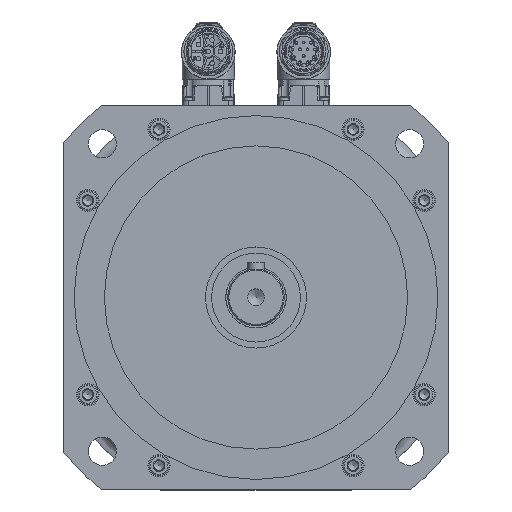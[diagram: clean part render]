
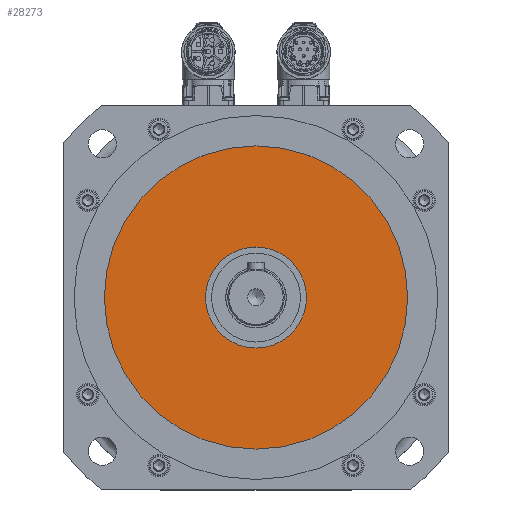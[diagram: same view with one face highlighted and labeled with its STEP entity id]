
A CAD part, top view. The second image highlights one B-rep face of the part: STEP entity #28273.
In plain terms, the highlighted planar face has unit normal (0, 0, 1).
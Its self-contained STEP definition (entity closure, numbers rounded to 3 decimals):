
#3888=FACE_BOUND('',#6260,.T.);
#3889=FACE_BOUND('',#6261,.T.);
#6260=EDGE_LOOP('',(#19713));
#6261=EDGE_LOOP('',(#19714));
#11492=CIRCLE('',#30103,25.);
#11496=CIRCLE('',#30112,75.);
#12840=VERTEX_POINT('',#40764);
#12844=VERTEX_POINT('',#40777);
#15695=EDGE_CURVE('',#12840,#12840,#11492,.T.);
#15699=EDGE_CURVE('',#12844,#12844,#11496,.T.);
#19713=ORIENTED_EDGE('',*,*,#15695,.T.);
#19714=ORIENTED_EDGE('',*,*,#15699,.F.);
#27599=PLANE('',#30111);
#28273=ADVANCED_FACE('',(#3888,#3889),#27599,.T.);
#30103=AXIS2_PLACEMENT_3D('',#40765,#33232,#33233);
#30111=AXIS2_PLACEMENT_3D('',#40776,#33248,#33249);
#30112=AXIS2_PLACEMENT_3D('',#40778,#33250,#33251);
#33232=DIRECTION('center_axis',(0.,0.,-1.));
#33233=DIRECTION('ref_axis',(-1.,0.,0.));
#33248=DIRECTION('center_axis',(0.,0.,1.));
#33249=DIRECTION('ref_axis',(1.,0.,0.));
#33250=DIRECTION('center_axis',(0.,0.,-1.));
#33251=DIRECTION('ref_axis',(-1.,0.,0.));
#40764=CARTESIAN_POINT('',(25.,0.,-1.));
#40765=CARTESIAN_POINT('Origin',(0.,0.,-1.));
#40776=CARTESIAN_POINT('Origin',(0.,0.,
-1.));
#40777=CARTESIAN_POINT('',(75.,0.,-1.));
#40778=CARTESIAN_POINT('Origin',(0.,0.,-1.));
